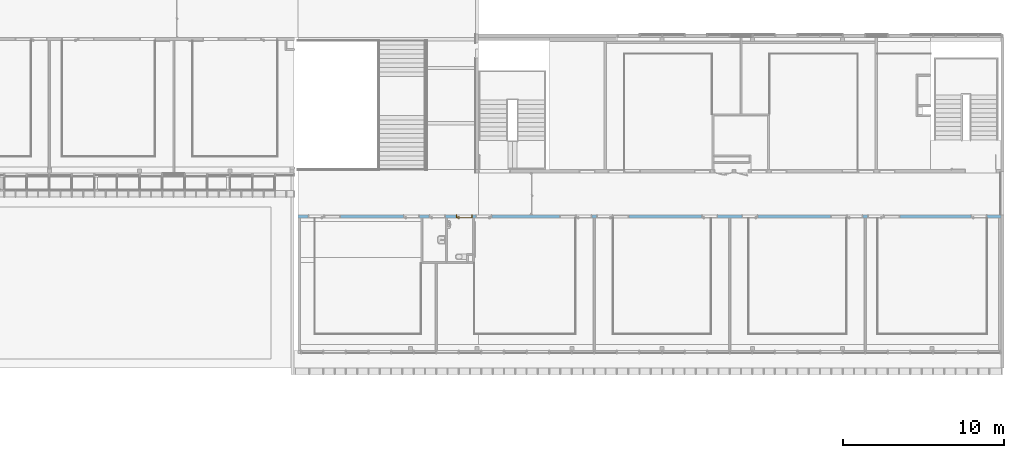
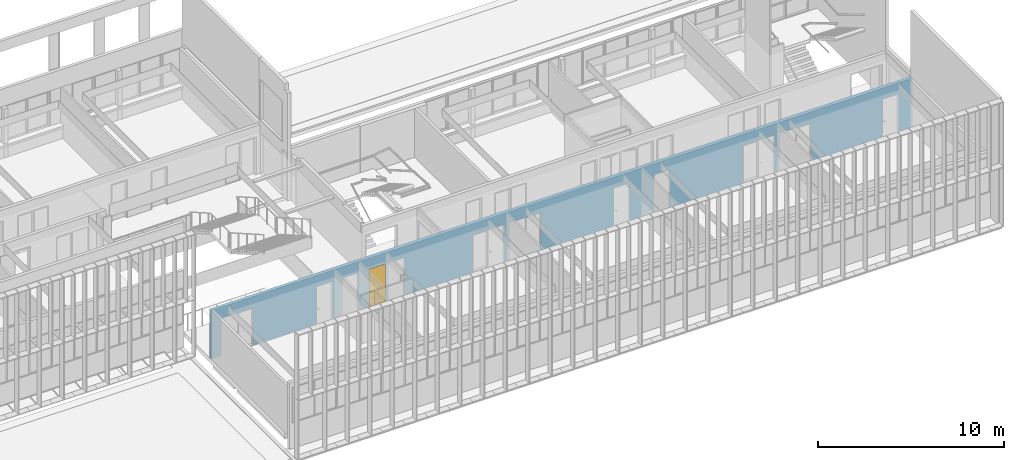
# One storey, part 74 of 106: 1 door, 18 openings, plus 1 element that does not belong to this part.
"""IFC2X3 building model written with IfcOpenShell, lengths in centimetres."""

from ifc_helpers import new_model, entity, si_unit, converted_unit, derived_unit, direction, frame, frame_2d, origin, place, context, subcontext, project, spatial, polyline, rectangle, extrude, clip, bounded_halfspace, faceted_brep, source, transform, mapped, material, material_list, layer, layer_set, layer_usage, type_object, type_shapes, element, fill, save


model = new_model("IFC2X3")

# Units and contexts
model_context = context("Model", 3, precision=0.001, world=origin(), true_north=direction((6.12303176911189e-17, 1.0)))
body_context = subcontext(model_context, "Body", "Model", "MODEL_VIEW")
ifc_project = project(units=[si_unit("LENGTHUNIT", "METRE", prefix="CENTI"), si_unit("AREAUNIT", "SQUARE_METRE"), si_unit("VOLUMEUNIT", "CUBIC_METRE"), converted_unit("PLANEANGLEUNIT", "DEGREE", entity("IfcRatioMeasure", 0.0174532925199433), si_unit("PLANEANGLEUNIT", "RADIAN"), dimensions=[0, 0, 0, 0, 0, 0, 0]), si_unit("MASSUNIT", "GRAM", prefix="KILO"), derived_unit("MASSDENSITYUNIT", [(si_unit("MASSUNIT", "GRAM", prefix="KILO"), 1), (si_unit("LENGTHUNIT", "METRE"), -3)]), si_unit("TIMEUNIT", "SECOND"), si_unit("FREQUENCYUNIT", "HERTZ"), si_unit("THERMODYNAMICTEMPERATUREUNIT", "DEGREE_CELSIUS"), derived_unit("THERMALTRANSMITTANCEUNIT", [(si_unit("MASSUNIT", "GRAM", prefix="KILO"), 1), (si_unit("THERMODYNAMICTEMPERATUREUNIT", "KELVIN"), -1), (si_unit("TIMEUNIT", "SECOND"), -3)]), derived_unit("VOLUMETRICFLOWRATEUNIT", [(si_unit("LENGTHUNIT", "METRE"), 3), (si_unit("TIMEUNIT", "SECOND"), -1)]), si_unit("ELECTRICCURRENTUNIT", "AMPERE"), si_unit("ELECTRICVOLTAGEUNIT", "VOLT"), si_unit("POWERUNIT", "WATT"), si_unit("FORCEUNIT", "NEWTON", prefix="KILO"), si_unit("ILLUMINANCEUNIT", "LUX"), si_unit("LUMINOUSFLUXUNIT", "LUMEN"), si_unit("LUMINOUSINTENSITYUNIT", "CANDELA"), derived_unit("USERDEFINED", [(si_unit("MASSUNIT", "GRAM", prefix="KILO"), -1), (si_unit("LENGTHUNIT", "METRE"), -2), (si_unit("TIMEUNIT", "SECOND"), 3), (si_unit("LUMINOUSFLUXUNIT", "LUMEN"), 1)]), derived_unit("LINEARVELOCITYUNIT", [(si_unit("LENGTHUNIT", "METRE"), 1), (si_unit("TIMEUNIT", "SECOND"), -1)]), si_unit("PRESSUREUNIT", "PASCAL"), derived_unit("USERDEFINED", [(si_unit("LENGTHUNIT", "METRE"), -2), (si_unit("MASSUNIT", "GRAM", prefix="KILO"), 1), (si_unit("TIMEUNIT", "SECOND"), -2)])], contexts=[model_context])

# Site, building, storey
site_placement = place(None, frame((-2781.94577612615, 7442.24238424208, 0.0)))
site = spatial("IfcSite", under=ifc_project, at=site_placement, Name="Default", CompositionType="ELEMENT")
building_placement = place(site_placement, origin())
building = spatial("IfcBuilding", under=site, at=building_placement, CompositionType="ELEMENT")
storey_placement = place(building_placement, frame((0.0, 0.0, 422.0)))
storey = spatial("IfcBuildingStorey", under=building, at=storey_placement, Name="Toiture - Cuisine", CompositionType="ELEMENT", Elevation=421.999999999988)

# Wall, openings, door
ifc_material_1 = material(Name="01 - Maçonnerie")
ifc_layer = layer(ifc_material_1, 20.0)
ifc_layer_set = layer_set([ifc_layer], Name="Mur de base:04 - Structure - béton - 20cm")
ifc_layer_usage = layer_usage(ifc_layer_set, "AXIS2", "NEGATIVE", 10.0)
wall_type = type_object("IfcWallType", Name="Mur de base:04 - Structure - béton - 20cm", PredefinedType="STANDARD", material=ifc_layer_set)
wall_placement = place(building_placement, frame((-4767.99987760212, -2200.15656731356, 422.0)))
wall = element("IfcWallStandardCase", 1, at=wall_placement, inside=storey, type_object=wall_type, material=ifc_layer_usage, Name="Mur de base:04 - Structure - béton - 20cm", ObjectType="Mur de base:04 - Structure - béton - 20cm", context=body_context, shape_type="Clipping", body=[
    clip(extrude(rectangle(XDim=4357.99999476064, YDim=19.9999999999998, at=frame_2d((2178.99999738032, -6.30606677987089e-14), x_axis=(-1.0, 0.0))), origin(), (0.0, 0.0, 1.0), 321.0), bounded_halfspace(frame((0.0, 10.0, 321.0), z_axis=(0.0, 0.0, -1.0), x_axis=(0.0, 1.0, 0.0)), True, frame((0.0, 10.0, 321.0)), polyline([(0.0, 0.0), (0.0, -20.0), (15.2999999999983, -20.0), (103.799999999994, -20.0), (105.799999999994, -20.0), (763.799999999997, -20.0), (773.799999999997, -20.0), (915.699994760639, -20.0), (925.699994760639, -20.0), (1082.69999476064, -20.0), (1092.69999476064, -20.0), (1720.69999476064, -20.0), (1722.69999476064, -20.0), (1832.69999476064, -20.0), (1842.69999476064, -20.0), (1952.69999476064, -20.0), (1954.69999476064, -20.0), (2560.69999476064, -20.0), (2562.69999476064, -20.0), (2672.69999476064, -20.0), (2682.69999476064, -20.0), (2792.69999476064, -20.0), (2794.69999476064, -20.0), (3400.69999476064, -20.0), (3402.69999476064, -20.0), (3512.69999476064, -20.0), (3522.69999476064, -20.0), (3592.69999476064, -20.0), (3594.69999476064, -20.0), (4270.69999476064, -20.0), (4272.69999476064, -20.0), (4342.69999476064, -20.0), (4358.0, -20.0), (4358.0, 0.0), (4356.0, 0.0), (1451.49999791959, 0.0), (1441.49999791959, 0.0), (1120.0, 0.0), (0.0, 0.0)]))),
])
opening_1_placement = place(wall_placement, origin())
element("IfcOpeningElement", 2, at=opening_1_placement, cuts=wall, Name="Mur de base:04 - Structure - béton - 20cm", ObjectType="Opening", context=body_context, shape_type="SweptSolid", body=[
    extrude(rectangle(XDim=270.0, YDim=20.0, at=frame_2d((0.0, 4.2632564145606e-14), x_axis=(0.0, 1.0))), frame((4368.0, 10.0, 135.0), z_axis=(0.0, 1.0, 0.0), x_axis=(1.0, 0.0, 0.0)), (0.0, 0.0, 1.0), 260.077533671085),
])
opening_2_placement = place(wall_placement, frame((4272.69999476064, 10.0, 0.0)))
element("IfcOpeningElement", 3, at=opening_2_placement, cuts=wall, Name="Int. Simple:PV (0.93m x 2.50m):1", ObjectType="Opening", context=body_context, shape_type="SweptSolid", body=[
    extrude(rectangle(XDim=248.500000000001, YDim=99.9999999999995, at=frame_2d((124.250000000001, 50.0), x_axis=(1.0, 0.0))), frame((0.0, 0.0, 0.0), z_axis=(0.0, -1.0, 0.0), x_axis=(0.0, 0.0, 1.0)), (0.0, 0.0, 1.0), 20.0),
])
opening_3_placement = place(wall_placement, frame((3632.69999476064, 10.0, 0.0)))
element("IfcOpeningElement", 4, at=opening_3_placement, cuts=wall, Name="Int. Simple:PV (0.93m x 2.50m):1", ObjectType="Opening", context=body_context, shape_type="SweptSolid", body=[
    extrude(rectangle(XDim=248.500000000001, YDim=99.9999999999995, at=frame_2d((124.250000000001, 49.9999999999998), x_axis=(1.0, 0.0))), frame((0.0, 0.0, 0.0), z_axis=(0.0, -1.0, 0.0), x_axis=(0.0, 0.0, 1.0)), (0.0, 0.0, 1.0), 20.0),
])
opening_4_placement = place(wall_placement, frame((3502.69999476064, 10.0, 0.0)))
element("IfcOpeningElement", 5, at=opening_4_placement, cuts=wall, Name="Int. Simple:PV (0.93m x 2.50m):1", ObjectType="Opening", context=body_context, shape_type="SweptSolid", body=[
    extrude(rectangle(XDim=248.500000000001, YDim=99.9999999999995, at=frame_2d((124.250000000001, 49.9999999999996), x_axis=(1.0, 0.0))), frame((0.0, 0.0, 0.0), z_axis=(0.0, -1.0, 0.0), x_axis=(0.0, 0.0, 1.0)), (0.0, 0.0, 1.0), 20.0),
])
opening_5_placement = place(wall_placement, frame((2852.69999476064, 10.0, 0.0)))
element("IfcOpeningElement", 6, at=opening_5_placement, cuts=wall, Name="Int. Simple:PV (0.93m x 2.50m):1", ObjectType="Opening", context=body_context, shape_type="SweptSolid", body=[
    extrude(rectangle(XDim=248.500000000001, YDim=99.9999999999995, at=frame_2d((124.250000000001, 49.9999999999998), x_axis=(1.0, 0.0))), frame((0.0, 0.0, 0.0), z_axis=(0.0, -1.0, 0.0), x_axis=(0.0, 0.0, 1.0)), (0.0, 0.0, 1.0), 20.0),
])
opening_6_placement = place(wall_placement, frame((2602.69999476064, 10.0, 0.0)))
element("IfcOpeningElement", 7, at=opening_6_placement, cuts=wall, Name="Int. Simple:PV (0.93m x 2.50m):1", ObjectType="Opening", context=body_context, shape_type="SweptSolid", body=[
    extrude(rectangle(XDim=248.500000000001, YDim=99.9999999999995, at=frame_2d((124.250000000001, 49.9999999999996), x_axis=(1.0, 0.0))), frame((0.0, 0.0, 0.0), z_axis=(0.0, -1.0, 0.0), x_axis=(0.0, 0.0, 1.0)), (0.0, 0.0, 1.0), 20.0),
])
opening_7_placement = place(wall_placement, frame((1952.69999476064, 10.0, 0.0)))
element("IfcOpeningElement", 8, at=opening_7_placement, cuts=wall, Name="Int. Simple:PV (0.93m x 2.50m):1", ObjectType="Opening", context=body_context, shape_type="SweptSolid", body=[
    extrude(rectangle(XDim=248.500000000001, YDim=99.9999999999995, at=frame_2d((124.250000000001, 49.9999999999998), x_axis=(1.0, 0.0))), frame((0.0, 0.0, 0.0), z_axis=(0.0, -1.0, 0.0), x_axis=(0.0, 0.0, 1.0)), (0.0, 0.0, 1.0), 20.0),
])
opening_8_placement = place(wall_placement, frame((1822.69999476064, 10.0, 0.0)))
element("IfcOpeningElement", 9, at=opening_8_placement, cuts=wall, Name="Int. Simple:PV (0.93m x 2.50m):1", ObjectType="Opening", context=body_context, shape_type="SweptSolid", body=[
    extrude(rectangle(XDim=248.500000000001, YDim=99.9999999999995, at=frame_2d((124.250000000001, 49.9999999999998), x_axis=(1.0, 0.0))), frame((0.0, 0.0, 0.0), z_axis=(0.0, -1.0, 0.0), x_axis=(0.0, 0.0, 1.0)), (0.0, 0.0, 1.0), 20.0),
])
opening_9_placement = place(wall_placement, frame((1202.69999476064, 10.0, 0.0)))
element("IfcOpeningElement", 10, at=opening_9_placement, cuts=wall, Name="Int. Simple:PV (0.93m x 2.50m):1", ObjectType="Opening", context=body_context, shape_type="SweptSolid", body=[
    extrude(rectangle(XDim=248.500000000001, YDim=99.9999999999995, at=frame_2d((124.250000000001, 49.9999999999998), x_axis=(1.0, 0.0))), frame((0.0, 0.0, 0.0), z_axis=(0.0, -1.0, 0.0), x_axis=(0.0, 0.0, 1.0)), (0.0, 0.0, 1.0), 20.0),
])
opening_10_placement = place(wall_placement, frame((1081.19999476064, 10.0, 0.0)))
opening_10 = element("IfcOpeningElement", 11, at=opening_10_placement, cuts=wall, Name="Int. Simple:PP simple (0.93m x 2.50m):1", ObjectType="Opening", context=body_context, shape_type="SweptSolid", body=[
    extrude(rectangle(XDim=248.500000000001, YDim=99.9999999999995, at=frame_2d((124.250000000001, 49.9999999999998), x_axis=(1.0, 0.0))), frame((0.0, 0.0, 0.0), z_axis=(0.0, -1.0, 0.0), x_axis=(0.0, 0.0, 1.0)), (0.0, 0.0, 1.0), 20.0),
])
opening_11_placement = place(wall_placement, frame((753.799999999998, 10.0, 0.0)))
element("IfcOpeningElement", 12, at=opening_11_placement, cuts=wall, Name="Int. Simple:PV (0.93m x 2.50m):1", ObjectType="Opening", context=body_context, shape_type="SweptSolid", body=[
    extrude(rectangle(XDim=248.500000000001, YDim=99.9999999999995, at=frame_2d((124.250000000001, 50.0), x_axis=(1.0, 0.0))), frame((0.0, 0.0, 0.0), z_axis=(0.0, -1.0, 0.0), x_axis=(0.0, 0.0, 1.0)), (0.0, 0.0, 1.0), 20.0),
])
opening_12_placement = place(wall_placement, frame((163.799999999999, 10.0, 0.0)))
element("IfcOpeningElement", 13, at=opening_12_placement, cuts=wall, Name="Int. Simple:PV (0.93m x 2.50m):1", ObjectType="Opening", context=body_context, shape_type="SweptSolid", body=[
    extrude(rectangle(XDim=248.500000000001, YDim=99.9999999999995, at=frame_2d((124.250000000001, 49.9999999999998), x_axis=(1.0, 0.0))), frame((0.0, 0.0, 0.0), z_axis=(0.0, -1.0, 0.0), x_axis=(0.0, 0.0, 1.0)), (0.0, 0.0, 1.0), 20.0),
])
opening_13_placement = place(wall_placement, frame((263.799999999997, 10.0, 0.0)))
element("IfcOpeningElement", 14, at=opening_13_placement, cuts=wall, Name="châssis intérieur vitré:châssis intérieur vitré (h=270) R+1:1", ObjectType="Opening", context=body_context, shape_type="SweptSolid", body=[
    extrude(rectangle(XDim=250.0, YDim=99.9999999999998, at=frame_2d((125.0, 49.9999999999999), x_axis=(1.0, 0.0))), frame((0.0, 0.0, 0.0), z_axis=(0.0, -1.0, 0.0), x_axis=(0.0, 0.0, 1.0)), (0.0, 0.0, 1.0), 20.0),
])
opening_14_placement = place(wall_placement, frame((1722.69999476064, 10.0, 0.0)))
element("IfcOpeningElement", 15, at=opening_14_placement, cuts=wall, Name="châssis intérieur vitré:châssis intérieur vitré (h=270) R+1:1", ObjectType="Opening", context=body_context, shape_type="SweptSolid", body=[
    extrude(rectangle(XDim=250.0, YDim=99.9999999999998, at=frame_2d((125.0, 49.9999999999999), x_axis=(1.0, 0.0))), frame((0.0, 0.0, 0.0), z_axis=(0.0, -1.0, 0.0), x_axis=(0.0, 0.0, 1.0)), (0.0, 0.0, 1.0), 20.0),
])
opening_15_placement = place(wall_placement, frame((2052.69999476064, 10.0, 0.0)))
element("IfcOpeningElement", 16, at=opening_15_placement, cuts=wall, Name="châssis intérieur vitré:châssis intérieur vitré (h=270) R+1:1", ObjectType="Opening", context=body_context, shape_type="SweptSolid", body=[
    extrude(rectangle(XDim=250.0, YDim=99.9999999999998, at=frame_2d((125.0, 49.9999999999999), x_axis=(1.0, 0.0))), frame((0.0, 0.0, 0.0), z_axis=(0.0, -1.0, 0.0), x_axis=(0.0, 0.0, 1.0)), (0.0, 0.0, 1.0), 20.0),
])
opening_16_placement = place(wall_placement, frame((3402.69999476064, 10.0, 0.0)))
element("IfcOpeningElement", 17, at=opening_16_placement, cuts=wall, Name="châssis intérieur vitré:châssis intérieur vitré (h=270) R+1:1", ObjectType="Opening", context=body_context, shape_type="SweptSolid", body=[
    extrude(rectangle(XDim=250.0, YDim=99.9999999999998, at=frame_2d((125.0, 49.9999999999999), x_axis=(1.0, 0.0))), frame((0.0, 0.0, 0.0), z_axis=(0.0, -1.0, 0.0), x_axis=(0.0, 0.0, 1.0)), (0.0, 0.0, 1.0), 20.0),
])
opening_17_placement = place(wall_placement, frame((3732.69999476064, 10.0, 0.0)))
element("IfcOpeningElement", 18, at=opening_17_placement, cuts=wall, Name="châssis intérieur vitré:châssis intérieur vitré (h=270) R+1:1", ObjectType="Opening", context=body_context, shape_type="SweptSolid", body=[
    extrude(rectangle(XDim=250.0, YDim=99.9999999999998, at=frame_2d((125.0, 49.9999999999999), x_axis=(1.0, 0.0))), frame((0.0, 0.0, 0.0), z_axis=(0.0, -1.0, 0.0), x_axis=(0.0, 0.0, 1.0)), (0.0, 0.0, 1.0), 20.0),
])
opening_18_placement = place(wall_placement, frame((914.199994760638, 10.0, 0.0)))
element("IfcOpeningElement", 19, at=opening_18_placement, cuts=wall, Name="Int. Simple:PP simple (0.93m x 2.50m):1", ObjectType="Opening", context=body_context, shape_type="SweptSolid", body=[
    extrude(rectangle(XDim=248.500000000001, YDim=99.9999999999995, at=frame_2d((124.250000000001, 50.0), x_axis=(1.0, 0.0))), frame((0.0, 0.0, 0.0), z_axis=(0.0, -1.0, 0.0), x_axis=(0.0, 0.0, 1.0)), (0.0, 0.0, 1.0), 20.0),
])
ifc_material_2 = material(Name="Finition Peinture - Blanc satiné")
ifc_material_3 = material(Name="Bois - Panneau de porte")
ifc_material_4 = material(Name="Bois - Cadre de porte")
ifc_material_list_1 = material_list([ifc_material_2, ifc_material_3, ifc_material_4])
ifc_material_list_2 = material_list([ifc_material_2, ifc_material_3, ifc_material_4])
door_style = type_object("IfcDoorStyle", Name="PP simple (0.93m x 2.50m)", ConstructionType="NOTDEFINED", OperationType="SINGLE_SWING_LEFT", ParameterTakesPrecedence=False, Sizeable=False, material=ifc_material_list_2)
shared_shape = source(origin(), body_context, "Body", "Brep", [
    faceted_brep([(10.5352761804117, -0.500000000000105, 86.6003983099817), (11.5000000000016, -0.500000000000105, 87.0), (11.5000000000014, -0.500000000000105, 108.0), (10.5352761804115, -0.500000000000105, 108.399601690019), (9.50000000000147, -0.500000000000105, 108.535898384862), (8.46472381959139, -0.500000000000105, 108.399601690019), (7.50000000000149, -0.500000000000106, 108.0), (7.50000000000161, -0.500000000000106, 87.0), (8.46472381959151, -0.500000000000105, 86.6003983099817), (9.50000000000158, -0.500000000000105, 86.464101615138), (10.5352761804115, 0.0, 108.399601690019), (11.5000000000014, 0.0, 108.0), (11.5000000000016, 0.0, 87.0), (10.5352761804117, 0.0, 86.6003983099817), (9.50000000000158, 0.0, 86.464101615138), (8.46472381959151, 0.0, 86.6003983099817), (7.50000000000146, 0.0, 87.0), (7.50000000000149, 0.0, 108.0), (8.46472381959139, 0.0, 108.399601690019), (9.50000000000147, 0.0, 108.535898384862)], [[[0, 1, 2, 3, 4, 5, 6, 7, 8, 9]], [[10, 11, 12, 13, 14, 15, 16, 17, 18, 19]], [[16, 15, 8, 7]], [[8, 15, 14, 9]], [[14, 13, 0, 9]], [[13, 12, 1, 0]], [[2, 1, 12, 11]], [[11, 10, 3, 2]], [[3, 10, 19, 4]], [[19, 18, 5, 4]], [[18, 17, 6, 5]], [[7, 6, 17, 16]]]),
    faceted_brep([(10.5352761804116, 4.0, 86.6003983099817), (11.5000000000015, 4.0, 87.0), (11.5000000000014, 4.0, 108.0), (10.5352761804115, 4.0, 108.399601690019), (9.50000000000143, 4.0, 108.535898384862), (8.46472381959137, 4.0, 108.399601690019), (7.50000000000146, 4.0, 108.0), (7.50000000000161, 4.0, 87.0), (8.46472381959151, 4.0, 86.6003983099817), (9.50000000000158, 4.0, 86.464101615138), (10.5352761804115, 4.49999999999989, 108.399601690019), (11.5000000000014, 4.49999999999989, 108.0), (11.5000000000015, 4.49999999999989, 87.0), (10.5352761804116, 4.49999999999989, 86.6003983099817), (9.50000000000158, 4.49999999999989, 86.464101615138), (8.46472381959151, 4.49999999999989, 86.6003983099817), (7.50000000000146, 4.49999999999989, 87.0), (7.50000000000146, 4.49999999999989, 108.0), (8.46472381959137, 4.49999999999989, 108.399601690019), (9.50000000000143, 4.49999999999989, 108.535898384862)], [[[0, 1, 2, 3, 4, 5, 6, 7, 8, 9]], [[10, 11, 12, 13, 14, 15, 16, 17, 18, 19]], [[11, 10, 3, 2]], [[3, 10, 19, 4]], [[19, 18, 5, 4]], [[18, 17, 6, 5]], [[7, 6, 17, 16]], [[16, 15, 8, 7]], [[8, 15, 14, 9]], [[14, 13, 0, 9]], [[13, 12, 1, 0]], [[2, 1, 12, 11]]]),
    faceted_brep([(9.29747013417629, -0.500000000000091, 100.778044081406), (9.70252986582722, -0.500000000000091, 100.778044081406), (10.1000000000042, -0.500000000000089, 100.699999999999), (10.1000000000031, -0.500000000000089, 99.3000000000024), (9.7025298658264, -0.500000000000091, 99.2219559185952), (9.29747013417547, -0.500000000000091, 99.221955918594), (8.8999999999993, -0.500000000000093, 99.2999999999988), (8.89999999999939, -0.500000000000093, 100.7), (8.89999999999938, -3.26509507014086, 100.7), (9.29747013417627, -3.10045754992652, 100.778044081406), (10.9023585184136, -4.70534593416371, 100.778044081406), (11.0701397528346, -4.30028620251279, 100.778044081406), (9.7025298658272, -2.93267631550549, 100.778044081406), (10.1000000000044, -2.76803879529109, 100.7), (10.1000000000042, -2.76803879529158, 99.3000000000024), (9.7025298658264, -2.93267631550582, 99.2219559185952), (11.0701397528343, -4.30028620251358, 99.2219559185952), (10.9023585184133, -4.70534593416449, 99.221955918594), (9.29747013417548, -3.10045754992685, 99.221955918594), (8.89999999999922, -3.26509507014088, 99.2999999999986), (10.7377209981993, -5.10281606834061, 100.7), (11.2347772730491, -3.90281606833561, 100.7), (11.2347772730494, -3.90281606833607, 99.3000000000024), (10.7377209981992, -5.10281606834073, 99.2999999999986), (19.5018640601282, -5.1028160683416, 99.2999999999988), (19.5018640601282, -4.70534593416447, 99.221955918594), (19.5018640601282, -4.30028620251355, 99.2219559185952), (19.5018640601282, -3.90281606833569, 99.3000000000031), (19.5018640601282, -3.90281606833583, 100.7), (19.5018640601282, -4.30028620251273, 100.778044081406), (19.5018640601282, -4.70534593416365, 100.778044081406), (19.5018640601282, -5.10281606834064, 100.699999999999), (14.7307697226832, -5.10281606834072, 100.7), (15.2860019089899, -4.5028160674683, 100.78786867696), (15.3683206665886, -3.9028160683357, 100.7), (15.3683206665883, -3.90281606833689, 99.3000000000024), (15.2860018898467, -4.50281607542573, 99.2121313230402), (14.7307700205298, -5.10281606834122, 99.2999999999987)], [[[0, 1, 2, 3, 4, 5, 6, 7]], [[8, 9, 0, 7]], [[9, 10, 11, 12, 1, 0]], [[12, 13, 2, 1]], [[3, 2, 13, 14]], [[14, 15, 4, 3]], [[15, 16, 17, 18, 5, 4]], [[18, 19, 6, 5]], [[7, 6, 19, 8]], [[20, 10, 9, 8]], [[11, 21, 13, 12]], [[14, 13, 21, 22]], [[22, 16, 15, 14]], [[17, 23, 19, 18]], [[8, 19, 23, 20]], [[24, 25, 26, 27, 28, 29, 30, 31]], [[32, 30, 33]], [[31, 30, 32]], [[10, 20, 32]], [[33, 34, 11]], [[21, 11, 34]], [[34, 29, 28]], [[30, 29, 33]], [[29, 34, 33]], [[10, 32, 33]], [[10, 33, 11]], [[22, 21, 34, 28, 27, 35]], [[35, 26, 36]], [[37, 36, 25]], [[22, 35, 16]], [[35, 27, 26]], [[24, 37, 25]], [[23, 17, 37]], [[37, 17, 36]], [[17, 16, 36]], [[16, 35, 36]], [[25, 36, 26]], [[20, 23, 37, 24, 31, 32]]]),
    faceted_brep([(9.29747013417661, 4.49999999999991, 100.778044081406), (8.89999999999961, 4.4999999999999, 100.7), (8.89999999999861, 4.4999999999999, 99.2999999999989), (9.29747013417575, 4.49999999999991, 99.221955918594), (9.70252986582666, 4.49999999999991, 99.2219559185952), (10.1000000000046, 4.49999999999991, 99.3000000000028), (10.1000000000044, 4.49999999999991, 100.7), (9.70252986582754, 4.49999999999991, 100.778044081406), (10.1000000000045, 6.7485204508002, 99.3000000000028), (10.1000000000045, 6.74852045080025, 100.7), (9.70252986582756, 6.91315797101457, 100.778044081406), (11.083890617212, 8.29451872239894, 100.778044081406), (10.916109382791, 8.69957845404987, 100.778044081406), (9.29747013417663, 7.0809392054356, 100.778044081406), (8.89999999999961, 7.24557672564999, 100.7), (8.89999999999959, 7.2455767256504, 99.2999999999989), (9.29747013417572, 7.08093920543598, 99.221955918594), (10.9161093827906, 8.69957845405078, 99.221955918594), (11.0838906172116, 8.29451872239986, 99.2219559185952), (9.70252986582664, 6.91315797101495, 99.2219559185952), (11.2485281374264, 7.89704858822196, 99.3000000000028), (11.2485281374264, 7.89704858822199, 100.7), (10.7514718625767, 9.09704858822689, 100.7), (10.7514718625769, 9.0970485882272, 99.2999999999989), (19.5045783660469, 7.89704858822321, 99.3000000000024), (19.5045783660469, 8.29451872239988, 99.2219559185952), (19.5045783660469, 8.6995784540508, 99.221955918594), (19.5045783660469, 9.09704858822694, 99.2999999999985), (19.5045783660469, 9.09704858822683, 100.7), (19.5045783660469, 8.69957845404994, 100.778044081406), (19.5045783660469, 8.29451872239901, 100.778044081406), (19.5045783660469, 7.89704858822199, 100.7), (15.3765520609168, 7.89704858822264, 99.3000000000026), (15.3765532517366, 7.89704858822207, 100.7), (15.294234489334, 8.49704858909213, 100.78786867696), (14.7445205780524, 9.09704858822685, 100.7), (14.7445204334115, 9.09704858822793, 99.2999999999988), (15.2942345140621, 8.49704858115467, 99.2121313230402)], [[[0, 1, 2, 3, 4, 5, 6, 7]], [[6, 5, 8, 9]], [[9, 10, 7, 6]], [[10, 11, 12, 13, 0, 7]], [[13, 14, 1, 0]], [[2, 1, 14, 15]], [[15, 16, 3, 2]], [[16, 17, 18, 19, 4, 3]], [[19, 8, 5, 4]], [[9, 8, 20, 21]], [[21, 11, 10, 9]], [[12, 22, 14, 13]], [[15, 14, 22, 23]], [[23, 17, 16, 15]], [[18, 20, 8, 19]], [[24, 25, 26, 27, 28, 29, 30, 31]], [[21, 20, 32, 24, 31, 33]], [[33, 30, 34]], [[35, 34, 29]], [[21, 33, 11]], [[33, 31, 30]], [[28, 35, 29]], [[22, 12, 35]], [[35, 12, 34]], [[12, 11, 34]], [[11, 33, 34]], [[29, 34, 30]], [[22, 35, 28, 27, 36, 23]], [[36, 26, 37]], [[27, 26, 36]], [[17, 23, 36]], [[37, 32, 18]], [[20, 18, 32]], [[32, 25, 24]], [[26, 25, 37]], [[25, 32, 37]], [[17, 36, 37]], [[17, 37, 18]]]),
    faceted_brep([(3.50000000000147, 4.0, 245.0), (96.5000000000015, 4.0, 245.0), (96.5000000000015, 4.0, 0.0), (3.50000000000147, 4.0, 0.0), (3.50000000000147, 0.0, 245.0), (3.50000000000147, 0.0, 0.0), (96.5000000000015, 0.0, 0.0), (96.5000000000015, 0.0, 245.0)], [[[0, 1, 2, 3]], [[4, 5, 6, 7]], [[1, 0, 4, 7]], [[2, 1, 7, 6]], [[3, 2, 6, 5]], [[0, 3, 5, 4]]]),
    faceted_brep([(0.0, 20.0, 0.0), (-1.50000000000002, 20.0, 0.0), (-1.50000000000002, 20.5000000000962, 0.0), (5.0, 20.5000000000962, 0.0), (5.0, 4.0, 0.0), (3.50000000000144, 4.0, 0.0), (3.50000000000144, -0.500000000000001, 0.0), (-1.50000000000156, -0.500000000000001, 0.0), (-1.50000000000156, 0.0, 0.0), (0.0, 0.0, 0.0), (0.0, 0.0, 248.500000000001), (0.0, 20.0, 248.500000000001), (100.0, 20.0, 248.500000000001), (100.0, 20.0, 0.0), (101.5, 20.0, 0.0), (101.5, 20.0, 250.0), (-1.50000000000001, 20.0, 250.0), (5.0, 20.5000000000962, 243.5), (5.0, 4.0, 243.5), (95.0, 4.0, 243.5), (95.0, 4.0, 0.0), (96.499999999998, 4.0, 0.0), (96.499999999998, 4.0, 245.0), (3.50000000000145, 4.0, 245.0), (100.0, 0.0, 248.500000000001), (100.0, 0.0, 0.0), (101.500000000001, 0.0, 0.0), (101.500000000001, -0.500000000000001, 0.0), (96.499999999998, -0.500000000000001, 0.0), (95.0, 20.5000000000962, 0.0), (101.5, 20.5000000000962, 0.0), (95.0, 20.5000000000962, 243.5), (3.50000000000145, -0.500000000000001, 245.0), (96.499999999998, -0.500000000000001, 245.0), (101.500000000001, -0.500000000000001, 250.0), (-1.50000000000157, -0.500000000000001, 250.0), (-1.50000000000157, 0.0, 250.0), (101.500000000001, 0.0, 250.0), (-1.50000000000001, 20.5000000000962, 250.0), (101.5, 20.5000000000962, 250.0)], [[[0, 1, 2, 3, 4, 5, 6, 7, 8, 9]], [[0, 9, 10, 11]], [[1, 0, 11, 12, 13, 14, 15, 16]], [[3, 17, 18, 4]], [[5, 4, 18, 19, 20, 21, 22, 23]], [[12, 24, 25, 13]], [[13, 25, 26, 27, 28, 21, 20, 29, 30, 14]], [[19, 31, 29, 20]], [[11, 10, 24, 12]], [[18, 17, 31, 19]], [[5, 23, 32, 6]], [[7, 6, 32, 33, 28, 27, 34, 35]], [[8, 7, 35, 36]], [[9, 8, 36, 37, 26, 25, 24, 10]], [[2, 1, 16, 38]], [[3, 2, 38, 39, 30, 29, 31, 17]], [[33, 22, 21, 28]], [[37, 34, 27, 26]], [[39, 15, 14, 30]], [[32, 23, 22, 33]], [[36, 35, 34, 37]], [[38, 16, 15, 39]]]),
])
type_shapes(door_style, [shared_shape])
door_placement = place(opening_10_placement, frame((-100.0, -20.0, 0.0)))
door = element("IfcDoor", 20, at=door_placement, inside=storey, type_object=door_style, material=ifc_material_list_1, Name="Int. Simple:PP simple (0.93m x 2.50m)", ObjectType="Int. Simple:PP simple (0.93m x 2.50m)", OverallHeight=248.500000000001, OverallWidth=99.9999999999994, context=body_context, shape_type="MappedRepresentation", body=[
    mapped(shared_shape, transform((0.0, 0.0, 0.0), scale=1.0)),
])
fill(opening_10, door)

save(model, "model.ifc")
